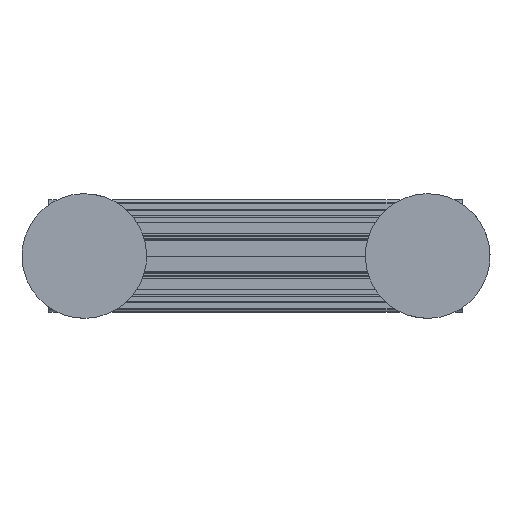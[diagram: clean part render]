
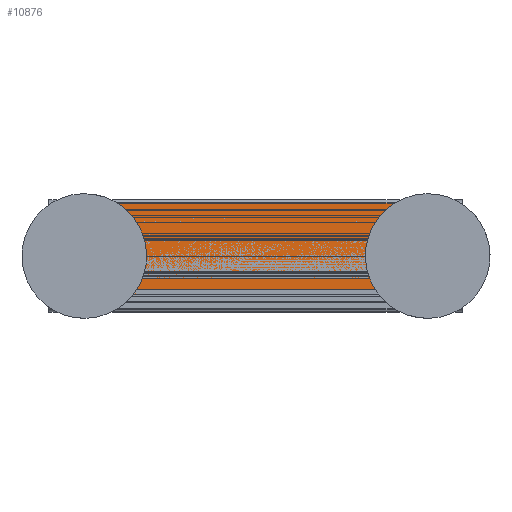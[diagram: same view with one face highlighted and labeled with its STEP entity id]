
A CAD part, front view. The second image highlights one B-rep face of the part: STEP entity #10876.
In plain terms, the highlighted planar face has unit normal (0, -1, 0).
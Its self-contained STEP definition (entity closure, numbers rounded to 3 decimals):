
#180 = CARTESIAN_POINT ( 'NONE',  ( 160., 80., 42.5 ) ) ;
#553 = EDGE_CURVE ( 'NONE', #52697, #3555, #42032, .T. ) ;
#557 = DIRECTION ( 'NONE',  ( -1., 0., 0. ) ) ;
#1047 = ORIENTED_EDGE ( 'NONE', *, *, #40595, .F. ) ;
#3555 = VERTEX_POINT ( 'NONE', #32675 ) ;
#7627 = DIRECTION ( 'NONE',  ( 0., 0., 1. ) ) ;
#7805 = DIRECTION ( 'NONE',  ( 0., 0., -1. ) ) ;
#8213 = CARTESIAN_POINT ( 'NONE',  ( 160., 80., 42.5 ) ) ;
#10876 = ADVANCED_FACE ( 'NONE', ( #19076 ), #21548, .F. ) ;
#11127 = AXIS2_PLACEMENT_3D ( 'NONE', #8213, #39599, #12742 ) ;
#11983 = LINE ( 'NONE', #29808, #42983 ) ;
#12742 = DIRECTION ( 'NONE',  ( 0., 0., 1. ) ) ;
#16879 = CARTESIAN_POINT ( 'NONE',  ( 160., 80., -42.5 ) ) ;
#18263 = CARTESIAN_POINT ( 'NONE',  ( -115., 80., -42.5 ) ) ;
#19076 = FACE_OUTER_BOUND ( 'NONE', #45247, .T. ) ;
#21548 = PLANE ( 'NONE',  #11127 ) ;
#23728 = VECTOR ( 'NONE', #34752, 1000. ) ;
#29808 = CARTESIAN_POINT ( 'NONE',  ( -115., 80., 42.5 ) ) ;
#30212 = CARTESIAN_POINT ( 'NONE',  ( 115., 80., 42.5 ) ) ;
#32675 = CARTESIAN_POINT ( 'NONE',  ( 115., 80., 42.5 ) ) ;
#32940 = VECTOR ( 'NONE', #7627, 1000. ) ;
#34752 = DIRECTION ( 'NONE',  ( -1., 0., 0. ) ) ;
#37543 = EDGE_CURVE ( 'NONE', #41545, #44011, #11983, .T. ) ;
#39599 = DIRECTION ( 'NONE',  ( 0., 1., 0. ) ) ;
#40595 = EDGE_CURVE ( 'NONE', #52697, #44011, #47612, .T. ) ;
#41545 = VERTEX_POINT ( 'NONE', #57033 ) ;
#42032 = LINE ( 'NONE', #30212, #32940 ) ;
#42983 = VECTOR ( 'NONE', #7805, 1000. ) ;
#44011 = VERTEX_POINT ( 'NONE', #18263 ) ;
#45247 = EDGE_LOOP ( 'NONE', ( #1047, #52127, #47218, #45741 ) ) ;
#45741 = ORIENTED_EDGE ( 'NONE', *, *, #37543, .T. ) ;
#46191 = VECTOR ( 'NONE', #557, 1000. ) ;
#47218 = ORIENTED_EDGE ( 'NONE', *, *, #49568, .T. ) ;
#47612 = LINE ( 'NONE', #16879, #23728 ) ;
#49568 = EDGE_CURVE ( 'NONE', #3555, #41545, #58123, .T. ) ;
#52127 = ORIENTED_EDGE ( 'NONE', *, *, #553, .T. ) ;
#52697 = VERTEX_POINT ( 'NONE', #56346 ) ;
#56346 = CARTESIAN_POINT ( 'NONE',  ( 115., 80., -42.5 ) ) ;
#57033 = CARTESIAN_POINT ( 'NONE',  ( -115., 80., 42.5 ) ) ;
#58123 = LINE ( 'NONE', #180, #46191 ) ;
